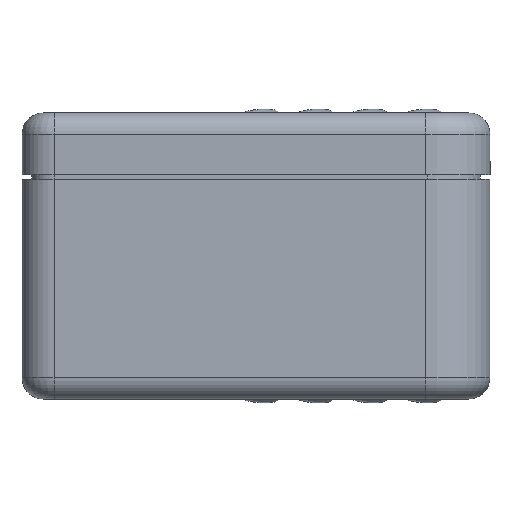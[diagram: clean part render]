
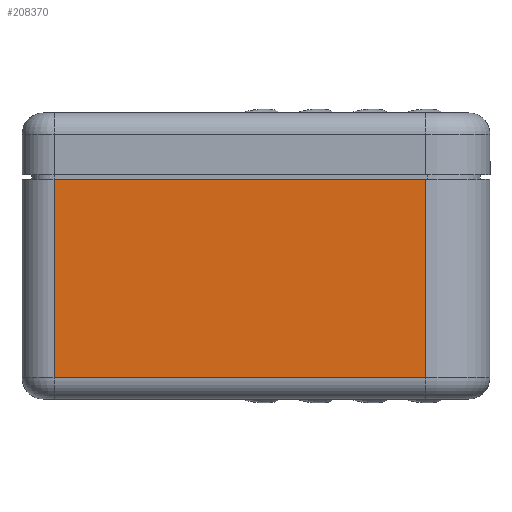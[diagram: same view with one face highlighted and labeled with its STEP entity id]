
A CAD part, front view. The second image highlights one B-rep face of the part: STEP entity #208370.
In plain terms, the highlighted planar face has unit normal (0, -1, 0).
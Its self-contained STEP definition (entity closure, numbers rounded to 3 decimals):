
#207660=CARTESIAN_POINT('',(-13.372,16.997,
8.625));
#207670=VERTEX_POINT('',#207660);
#207920=CARTESIAN_POINT('',(4.038,16.997,
8.625));
#207930=VERTEX_POINT('',#207920);
#207980=CARTESIAN_POINT('',(-0.006,16.997,
8.625));
#207990=DIRECTION('',(-1.,0.,0.));
#208000=VECTOR('',#207990,1.);
#208010=LINE('',#207980,#208000);
#208020=EDGE_CURVE('',#207930,#207670,#208010,.T.);
#208070=CARTESIAN_POINT('',(-8.316,16.997,
17.501));
#208080=DIRECTION('',(0.,1.,0.));
#208090=DIRECTION('',(-1.,0.,0.));
#208100=AXIS2_PLACEMENT_3D('',#208070,#208080,#208090);
#208110=PLANE('',#208100);
#208120=CARTESIAN_POINT('',(-13.372,16.997,
28.55));
#208130=DIRECTION('',(0.,0.,1.));
#208140=VECTOR('',#208130,1.);
#208150=LINE('',#208120,#208140);
#208160=CARTESIAN_POINT('',(-13.372,16.997,17.925));
#208170=VERTEX_POINT('',#208160);
#208180=EDGE_CURVE('',#207670,#208170,#208150,.T.);
#208190=ORIENTED_EDGE('',*,*,#208180,.F.);
#208200=CARTESIAN_POINT('',(0.,16.997,
17.925));
#208210=DIRECTION('',(1.,0.,0.));
#208220=VECTOR('',#208210,1.);
#208230=LINE('',#208200,#208220);
#208240=CARTESIAN_POINT('',(4.038,16.997,17.925));
#208250=VERTEX_POINT('',#208240);
#208260=EDGE_CURVE('',#208170,#208250,#208230,.T.);
#208270=ORIENTED_EDGE('',*,*,#208260,.F.);
#208280=CARTESIAN_POINT('',(4.038,16.997,
28.55));
#208290=DIRECTION('',(0.,0.,-1.));
#208300=VECTOR('',#208290,1.);
#208310=LINE('',#208280,#208300);
#208320=EDGE_CURVE('',#208250,#207930,#208310,.T.);
#208330=ORIENTED_EDGE('',*,*,#208320,.F.);
#208340=ORIENTED_EDGE('',*,*,#208020,.F.);
#208350=EDGE_LOOP('',(#208340,#208330,#208270,#208190));
#208360=FACE_OUTER_BOUND('',#208350,.T.);
#208370=ADVANCED_FACE('',(#208360),#208110,.F.);
